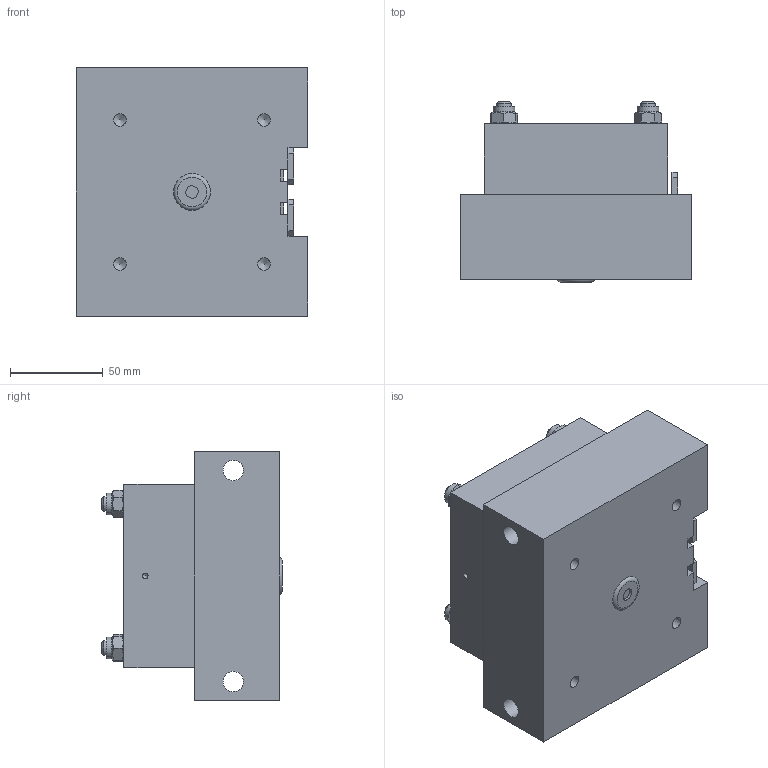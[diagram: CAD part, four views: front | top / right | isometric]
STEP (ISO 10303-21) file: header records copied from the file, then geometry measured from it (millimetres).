
FILE_DESCRIPTION((''),'2;1');
FILE_NAME('C:\VaultWork\Zeichnungen\Maßblätter\Multizylinder\M 90\M90- 5\M01848-4-0 Maßblatt Multizylinder M90-2-5 berührungslose Abfrage.stp','2013-12-12T14:32:05',('Sergeew'),(''),'Autodesk Inventor 2012','Autodesk Inventor 2012','');
FILE_SCHEMA(('AUTOMOTIVE_DESIGN { 1 0 10303 214 1 1 1 1 }'));
Length unit declared in the file: millimetre
Products named in the file (1): M01848-4-0 Maßblatt Multizylinder M90-2-5 berührungslose Abfrage
Bounding box: 125 x 97.5 x 134 mm (x, y, z)
Volume: 1088876.9 mm3; surface area: 94507.1 mm2
Topology: 1 solids, 5 shells, 174 faces, 422 edges, 278 vertices
Faces by surface type: plane 106, cylinder 40, cone 27, torus 1
Full cylindrical faces by diameter (mm): 3 x1, 4.3 x4, 5 x1, 6.647 x5, 8 x8, 8.566 x2, 9 x4, 10 x4, 11 x2, 11.6 x4, 15 x1
Entity records: 4512 total; most frequent: CARTESIAN_POINT 835, DIRECTION 722, ORIENTED_EDGE 644, EDGE_CURVE 322, AXIS2_PLACEMENT_3D 273, EDGE_LOOP 270, VERTEX_POINT 242, VECTOR 176
